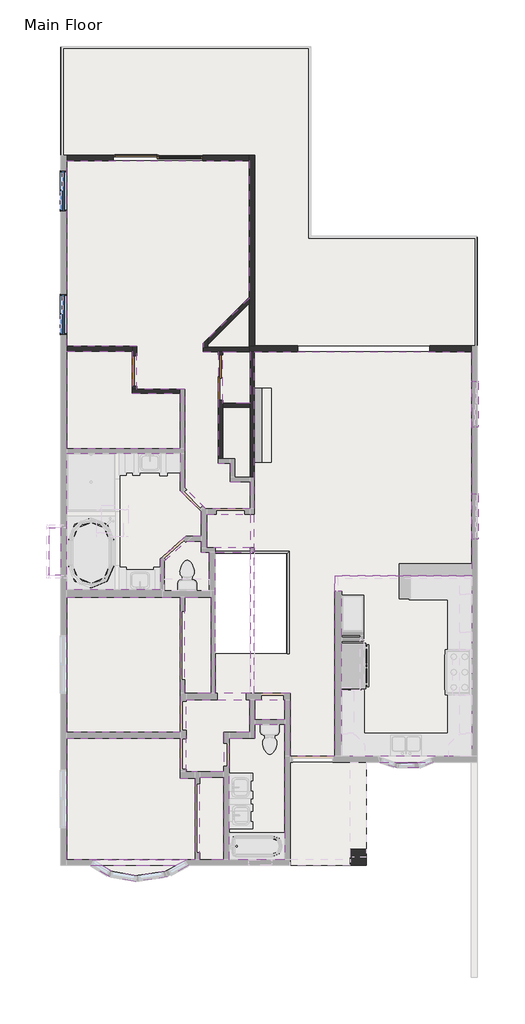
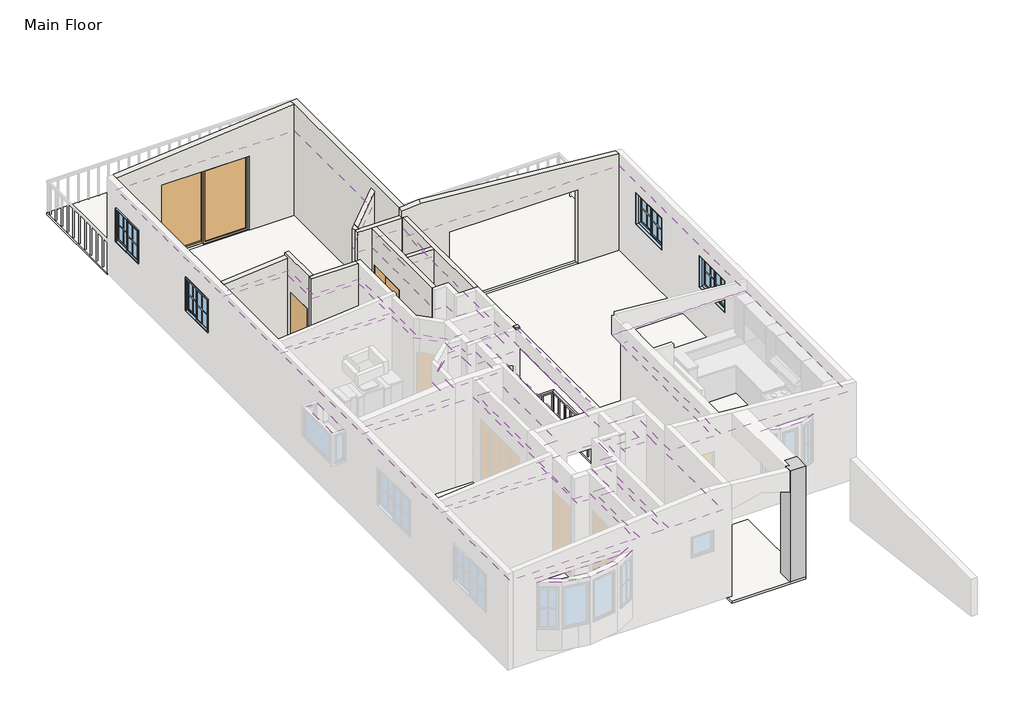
# One storey, part 3 of 5: 19 coverings, 12 walls, 7 slabs, 4 windows, 3 doors, 2 columns, 2 roofs, 1 railing.
"""IFC4 building model written with IfcOpenShell, lengths in millimetres."""

from ifc_helpers import new_model, si_unit, frame, origin, origin_with_axes, place, context, project, spatial, polyline, outline, extrude, faceted_brep, transform, mapped, element, save
from components import door_46b09886, door_6404c185, door_98a61b3f, default_1_cc5ff5b1, default_1_672f8768

model = new_model("IFC4")

# Units and contexts
model_context = context("Model", 3, world=origin())
ifc_project = project(units=[si_unit("LENGTHUNIT", "METRE", prefix="MILLI")], contexts=[model_context])

# Site, building, storey
site = spatial("IfcSite", under=ifc_project)
building = spatial("IfcBuilding", under=site)
storey = spatial("IfcBuildingStorey", under=building, Name="Main Floor", Elevation=0.0)

# Columns
placement = place(None, origin())
element("IfcColumn", 1, ObjectType="Rectangular Column 3D : Default 1", at=placement, inside=storey, context=model_context, shape_type="Brep", body=[
    faceted_brep([(1840.6244069, -9054.7938544, 3048.0), (2272.4244069, -9054.7938544, 3048.0), (2272.4244069, -8622.9938544, 3048.0), (1941.697808, -8622.9938544, 3048.0), (1941.697808, -8838.8938544, 3048.0), (1840.6244069, -8838.8938544, 3048.0), (2272.4244069, -8622.9938544, -152.4), (2272.4244069, -9054.7938544, -152.4), (1840.6244069, -9054.7938544, -152.4), (1840.6244069, -8622.9938544, -152.4), (1840.6244069, -8622.9938544, 2438.4), (2270.9820668, -8622.9938544, 2438.4), (2270.9820668, -8622.9938544, 3019.1913603), (1840.6244069, -8838.8938544, 2438.4), (2270.9820668, -8838.8938544, 2438.4), (2270.9820668, -8838.8938544, 3019.1913603)], [[[0, 1, 2, 3, 4, 5]], [[6, 7, 8, 9]], [[6, 9, 10, 11, 12, 3, 2]], [[9, 8, 0, 5, 13, 10]], [[1, 0, 8, 7]], [[2, 1, 7, 6]], [[14, 15, 12, 11]], [[14, 11, 10, 13]], [[15, 14, 13, 5, 4]], [[12, 15, 4, 3]]]),
])
element("IfcColumn", 2, ObjectType="Rectangular Column 3D : Default 1", at=placement, inside=storey, context=model_context, shape_type="Brep", body=[
    faceted_brep([(-705.7255931, -742.6438544, 3048.0), (-705.7255931, -628.3438544, 3048.0), (-820.0255931, -628.3438544, 3048.0), (-820.0255931, -742.6438544, 3048.0), (-705.7255931, -742.6438544, 2997.2), (-705.7255931, -685.4938544, 2997.2), (-705.7255931, -628.3438544, 2997.2), (-820.0255931, -628.3438544, 2997.2), (-820.0255931, -685.4938544, 2997.2), (-820.0255931, -742.6438544, 2997.2)], [[[0, 1, 2, 3]], [[1, 0, 4, 5, 6]], [[2, 1, 6, 7]], [[3, 2, 7, 8, 9]], [[0, 3, 9, 4]], [[6, 5, 4, 9, 8, 7]]]),
])

# Coverings
element("IfcCovering", 3, ObjectType="1/2\" Ceiling", at=placement, inside=storey, context=model_context, shape_type="Brep", body=[
    faceted_brep([(-2483.8869931, -8902.3938544, 2880.3477589), (-2274.1755931, -8902.3938544, 2908.4132251), (-2274.1755931, -6737.0438544, 2908.4132251), (-2674.2255931, -6737.0438544, 2854.8749351), (-2674.2255931, -5676.5938544, 2854.8749351), (-5690.4755931, -5676.5938544, 2451.2132251), (-5690.4755931, -8902.3938544, 2451.2132251), (-2483.8869931, -8902.3938544, 2867.5345338), (-5690.4755931, -8902.3938544, 2438.4), (-5690.4755931, -5676.5938544, 2438.4), (-2674.2255931, -5676.5938544, 2842.06171), (-2674.2255931, -6737.0438544, 2842.06171), (-2274.1755931, -6737.0438544, 2895.6), (-2274.1755931, -8902.3938544, 2895.6)], [[[0, 1, 2, 3, 4, 5, 6]], [[7, 8, 9, 10, 11, 12, 13]], [[1, 0, 7, 13]], [[2, 1, 13, 12]], [[3, 2, 12, 11]], [[4, 3, 11, 10]], [[5, 4, 10, 9]], [[6, 5, 9, 8]], [[0, 6, 8, 7]]]),
])
element("IfcCovering", 4, ObjectType="1/2\" Ceiling", at=placement, inside=storey, context=model_context, shape_type="SweptSolid", body=[
    extrude(outline(polyline([(-832.7255931, -5524.1938544), (-1512.1755931, -5524.1938544), (-1512.1755931, -6571.9438544), (-2217.0255931, -6571.9438544), (-2509.1255931, -6571.9438544), (-2509.1255931, -4654.2438544), (-832.7255931, -4654.2438544), (-832.7255931, -5524.1938544)])), frame((0.0, 0.0, 2133.6), z_axis=(0.0, 0.0, 1.0), x_axis=(1.0, 0.0, 0.0)), (0.0, 0.0, 1.0), 12.7),
])
element("IfcCovering", 5, ObjectType="1/2\" Ceiling", at=placement, inside=storey, context=model_context, shape_type="SweptSolid", body=[
    extrude(outline(polyline([(100.7244069, -6241.7438544), (100.7244069, -8902.3938544), (-1372.4755931, -8902.3938544), (-1372.4755931, -5676.5938544), (-693.0255931, -5676.5938544), (-693.0255931, -5308.2938544), (100.7244069, -5308.2938544), (100.7244069, -6241.7438544)])), frame((0.0, 0.0, 2438.4), z_axis=(0.0, 0.0, 1.0), x_axis=(1.0, 0.0, 0.0)), (0.0, 0.0, 1.0), 12.7),
])
element("IfcCovering", 6, ObjectType="1/2\" Ceiling", at=placement, inside=storey, context=model_context, shape_type="Brep", body=[
    faceted_brep([(-2674.2255931, -5524.1938544, 2908.4450702), (-2674.2255931, -4571.6938544, 2908.4450702), (-2674.2255931, -1936.4438544, 2908.4450702), (-3150.4755931, -1936.4438544, 2836.2555965), (-5690.4755931, -1936.4438544, 2451.2450702), (-5690.4755931, -5524.1938544, 2451.2450702), (-2674.2255931, -5524.1938544, 2895.6), (-5690.4755931, -5524.1938544, 2438.4), (-5690.4755931, -1936.4438544, 2438.4), (-3150.4755931, -1936.4438544, 2823.4105263), (-2674.2255931, -1936.4438544, 2895.6), (-2674.2255931, -4571.6938544, 2895.6)], [[[0, 1, 2, 3, 4, 5]], [[6, 7, 8, 9, 10, 11]], [[1, 0, 6, 11]], [[2, 1, 11, 10]], [[3, 2, 10, 9]], [[4, 3, 9, 8]], [[5, 4, 8, 7]], [[0, 5, 7, 6]]]),
])
element("IfcCovering", 7, ObjectType="1/2\" Ceiling", at=placement, inside=storey, context=model_context, shape_type="SweptSolid", body=[
    extrude(outline(polyline([(-1855.0755931, -1936.4438544), (-1855.0755931, -4489.1438544), (-2559.9255931, -4489.1438544), (-2559.9255931, -1936.4438544), (-1855.0755931, -1936.4438544)])), frame((0.0, 0.0, 2438.4), z_axis=(0.0, 0.0, 1.0), x_axis=(1.0, 0.0, 0.0)), (0.0, 0.0, 1.0), 12.7),
])
element("IfcCovering", 8, ObjectType="1/2\" Ceiling", at=placement, inside=storey, context=model_context, shape_type="SweptSolid", body=[
    extrude(outline(polyline([(100.7244069, -5193.9938544), (-693.0255931, -5193.9938544), (-693.0255931, -4654.2438544), (100.7244069, -4654.2438544), (100.7244069, -5193.9938544)])), frame((0.0, 0.0, 2133.6), z_axis=(0.0, 0.0, 1.0), x_axis=(1.0, 0.0, 0.0)), (0.0, 0.0, 1.0), 12.7),
])
element("IfcCovering", 9, ObjectType="1/2\" Ceiling", at=placement, inside=storey, context=model_context, shape_type="Brep", body=[
    faceted_brep([(1427.8744069, -6165.5438544, 2739.3417571), (1427.8744069, -1364.9438544, 2739.3417571), (5066.4244069, -1364.9438544, 2451.1397769), (5066.4244069, 4585.0061456, 2451.1397769), (-705.7255931, 4585.0061456, 2908.3397769), (-705.7255931, 1187.7561456, 2908.3397769), (-705.7255931, -4489.1438544, 2908.3397769), (253.1244069, -4489.1438544, 2832.3912621), (253.1244069, -6165.5438544, 2832.3912621), (1427.8744069, -6165.5438544, 2726.6019802), (253.1244069, -6165.5438544, 2819.6514851), (253.1244069, -4489.1438544, 2819.6514851), (-705.7255931, -4489.1438544, 2895.6), (-705.7255931, 1187.7561456, 2895.6), (-705.7255931, 4585.0061456, 2895.6), (5066.4244069, 4585.0061456, 2438.4), (5066.4244069, -1364.9438544, 2438.4), (1427.8744069, -1364.9438544, 2726.6019802)], [[[0, 1, 2, 3, 4, 5, 6, 7, 8]], [[9, 10, 11, 12, 13, 14, 15, 16, 17]], [[1, 0, 9, 17]], [[2, 1, 17, 16]], [[3, 2, 16, 15]], [[4, 3, 15, 14]], [[5, 4, 14, 13]], [[6, 5, 13, 12]], [[7, 6, 12, 11]], [[8, 7, 11, 10]], [[0, 8, 10, 9]]]),
])
element("IfcCovering", 10, ObjectType="1/2\" Ceiling", at=placement, inside=storey, context=model_context, shape_type="Brep", body=[
    faceted_brep([(-2667.8755931, 2006.9061456, 2908.4444647), (-2667.8755931, 3473.7561456, 2908.4444647), (-3944.2255931, 3473.7561456, 2715.3831202), (-3944.2255931, 4591.3561456, 2715.3831202), (-5690.4755931, 4591.3561456, 2451.2444647), (-5690.4755931, 2006.9061456, 2451.2444647), (-2667.8755931, 2006.9061456, 2895.6), (-5690.4755931, 2006.9061456, 2438.4), (-5690.4755931, 4591.3561456, 2438.4), (-3944.2255931, 4591.3561456, 2702.5386555), (-3944.2255931, 3473.7561456, 2702.5386555), (-2667.8755931, 3473.7561456, 2895.6)], [[[0, 1, 2, 3, 4, 5]], [[6, 7, 8, 9, 10, 11]], [[1, 0, 6, 11]], [[2, 1, 11, 10]], [[3, 2, 10, 9]], [[4, 3, 9, 8]], [[5, 4, 8, 7]], [[0, 5, 7, 6]]]),
])
element("IfcCovering", 11, ObjectType="1/2\" Ceiling", at=placement, inside=storey, context=model_context, shape_type="Brep", body=[
    faceted_brep([(-5690.4755931, 4731.0561456, 2451.1564191), (-3829.9255931, 4731.0561456, 2626.7260128), (-3829.9255931, 3588.0561456, 2626.7260128), (-2553.5755931, 3588.0561456, 2747.1679525), (-2553.5755931, 1949.7561456, 2747.1679525), (-2553.5755931, 970.5797803, 2747.1679525), (-2002.4019585, 419.4061456, 2799.179095), (-820.0255931, 419.4061456, 2910.7532736), (-820.0255931, 1130.6061456, 2910.7532736), (-1340.7255931, 1130.6061456, 2861.6177559), (-1340.7255931, 1625.9061456, 2861.6177559), (-1658.2255931, 1625.9061456, 2831.6570744), (-1658.2255931, 4585.0061456, 2831.6570744), (-2058.2755931, 4585.0061456, 2793.9066157), (-2058.2755931, 4822.8652456, 2793.9066157), (-845.4255931, 5997.8137041, 2908.3564191), (-845.4255931, 9652.3061456, 2908.3564191), (-5690.4755931, 9652.3061456, 2451.1564191), (-5690.4755931, 4731.0561456, 2438.4), (-5690.4755931, 9652.3061456, 2438.4), (-845.4255931, 9652.3061456, 2895.6), (-845.4255931, 5997.8137041, 2895.6), (-2058.2755931, 4822.8652456, 2781.1501966), (-2058.2755931, 4585.0061456, 2781.1501966), (-1658.2255931, 4585.0061456, 2818.9006553), (-1658.2255931, 1625.9061456, 2818.9006553), (-1340.7255931, 1625.9061456, 2848.8613368), (-1340.7255931, 1130.6061456, 2848.8613368), (-820.0255931, 1130.6061456, 2897.9968545), (-820.0255931, 419.4061456, 2897.9968545), (-2002.4019585, 419.4061456, 2786.4226759), (-2553.5755931, 970.5797803, 2734.4115334), (-2553.5755931, 1949.7561456, 2734.4115334), (-2553.5755931, 3588.0561456, 2734.4115334), (-3829.9255931, 3588.0561456, 2613.9695937), (-3829.9255931, 4731.0561456, 2613.9695937)], [[[0, 1, 2, 3, 4, 5, 6, 7, 8, 9, 10, 11, 12, 13, 14, 15, 16, 17]], [[18, 19, 20, 21, 22, 23, 24, 25, 26, 27, 28, 29, 30, 31, 32, 33, 34, 35]], [[1, 0, 18, 35]], [[2, 1, 35, 34]], [[3, 2, 34, 33]], [[4, 3, 33, 32]], [[5, 4, 32, 31]], [[6, 5, 31, 30]], [[7, 6, 30, 29]], [[8, 7, 29, 28]], [[9, 8, 28, 27]], [[10, 9, 27, 26]], [[11, 10, 26, 25]], [[12, 11, 25, 24]], [[13, 12, 24, 23]], [[14, 13, 23, 22]], [[15, 14, 22, 21]], [[16, 15, 21, 20]], [[17, 16, 20, 19]], [[0, 17, 19, 18]]]),
])
element("IfcCovering", 12, ObjectType="1/2\" Ceiling", at=placement, inside=storey, context=model_context, shape_type="SweptSolid", body=[
    extrude(outline(polyline([(-1543.9255931, 3219.7561456), (-1543.9255931, 4585.0061456), (-820.0255931, 4585.0061456), (-820.0255931, 3219.7561456), (-1543.9255931, 3219.7561456)])), frame((0.0, 0.0, 2692.4), z_axis=(0.0, 0.0, 1.0), x_axis=(1.0, 0.0, 0.0)), (0.0, 0.0, 1.0), 12.7),
])
element("IfcCovering", 13, ObjectType="1/2\" Ceiling", at=placement, inside=storey, context=model_context, shape_type="SweptSolid", body=[
    extrude(outline(polyline([(-1905.8755931, -742.6438544), (-1905.8755931, -1758.6438544), (-3093.3255931, -1758.6438544), (-3093.3255931, -971.6794544), (-2493.9101931, -444.1938544), (-2121.7755931, -444.1938544), (-2121.7755931, -742.6438544), (-1905.8755931, -742.6438544)])), frame((0.0, 0.0, 2743.2), z_axis=(0.0, 0.0, 1.0), x_axis=(1.0, 0.0, 0.0)), (0.0, 0.0, 1.0), 12.7),
])
element("IfcCovering", 14, ObjectType="1/2\" Ceiling", at=placement, inside=storey, context=model_context, shape_type="SweptSolid", body=[
    extrude(outline(polyline([(-1512.1755931, -6711.6438544), (-1512.1755931, -8902.3938544), (-2159.8755931, -8902.3938544), (-2159.8755931, -6711.6438544), (-1512.1755931, -6711.6438544)])), frame((0.0, 0.0, 2438.4), z_axis=(0.0, 0.0, 1.0), x_axis=(1.0, 0.0, 0.0)), (0.0, 0.0, 1.0), 12.7),
])
element("IfcCovering", 15, ObjectType="1/2\" Ceiling", at=placement, inside=storey, context=model_context, shape_type="SweptSolid", body=[
    extrude(outline(polyline([(1427.8744069, -1364.9438544), (5066.4244069, -1364.9438544), (5066.4244069, -6165.5438544), (4093.5395839, -6165.5438544), (1618.3744069, -6165.5438544), (1618.3744069, -1784.0438544), (1427.8744069, -1784.0438544), (1427.8744069, -1364.9438544)])), frame((0.0, 0.0, 2438.4), z_axis=(0.0, 0.0, 1.0), x_axis=(1.0, 0.0, 0.0)), (0.0, 0.0, 1.0), 12.7),
])
element("IfcCovering", 16, ObjectType="1/2\" Ceiling", at=placement, inside=storey, context=model_context, shape_type="SweptSolid", body=[
    extrude(outline(polyline([(-5842.8755931, -88.5938544), (-5842.8755931, -1352.2438544), (-6147.6755931, -1352.2438544), (-6147.6755931, -88.5938544), (-5842.8755931, -88.5938544)])), frame((0.0, 0.0, 2260.6), z_axis=(0.0, 0.0, 1.0), x_axis=(1.0, 0.0, 0.0)), (0.0, 0.0, 1.0), 12.7),
])
element("IfcCovering", 17, ObjectType="1/2\" Ceiling", at=placement, inside=storey, context=model_context, shape_type="Brep", body=[
    faceted_brep([(-3207.6255931, -1733.2438544, 2769.2913439), (-3207.6255931, -920.0083063, 2769.2913439), (-2522.6092328, -317.1938544, 2857.051447), (-2121.7755931, -317.1938544, 2908.4037994), (-2121.7755931, 341.2141456, 2908.4037994), (-2667.8755931, 887.3141456, 2838.4408101), (-2667.8755931, 1892.6061456, 2838.4408101), (-5690.4755931, 1892.6061456, 2451.2037994), (-5690.4755931, -1733.2438544, 2451.2037994), (-4166.4755931, 387.74856, 2646.449351), (-4166.4755931, -221.85144, 2646.449351), (-4776.0755931, -221.85144, 2568.3511304), (-4776.0755931, 387.74856, 2568.3511304), (-3207.6255931, -1733.2438544, 2756.4875445), (-5690.4755931, -1733.2438544, 2438.4), (-5690.4755931, 1892.6061456, 2438.4), (-2667.8755931, 1892.6061456, 2825.6370107), (-2667.8755931, 887.3141456, 2825.6370107), (-2121.7755931, 341.2141456, 2895.6), (-2121.7755931, -317.1938544, 2895.6), (-2522.6092328, -317.1938544, 2844.2476476), (-3207.6255931, -920.0083063, 2756.4875445), (-4166.4755931, 387.74856, 2633.6455516), (-4776.0755931, 387.74856, 2555.547331), (-4776.0755931, -221.85144, 2555.547331), (-4166.4755931, -221.85144, 2633.6455516)], [[[0, 1, 2, 3, 4, 5, 6, 7, 8], [9, 10, 11, 12]], [[13, 14, 15, 16, 17, 18, 19, 20, 21], [22, 23, 24, 25]], [[2, 1, 21, 20]], [[3, 2, 20, 19]], [[4, 3, 19, 18]], [[5, 4, 18, 17]], [[6, 5, 17, 16]], [[7, 6, 16, 15]], [[8, 7, 15, 14]], [[0, 8, 14, 13]], [[1, 0, 13, 21]], [[10, 9, 22, 25]], [[11, 10, 25, 24]], [[12, 11, 24, 23]], [[9, 12, 23, 22]]]),
])
element("IfcCovering", 18, ObjectType="1/2\" Ceiling", at=placement, inside=storey, context=model_context, shape_type="SweptSolid", body=[
    extrude(outline(polyline([(-2483.8869931, -8902.3938544), (-3066.9473931, -9216.3494544), (-3847.8613931, -9333.1791544), (-4495.9832156, -9217.0063323), (-5009.6362959, -8902.3938544), (-2483.8869931, -8902.3938544)])), frame((0.0, 0.0, 2260.6), z_axis=(0.0, 0.0, 1.0), x_axis=(1.0, 0.0, 0.0)), (0.0, 0.0, 1.0), 12.7),
])
element("IfcCovering", 19, ObjectType="1/2\" Ceiling", at=placement, inside=storey, context=model_context, shape_type="SweptSolid", body=[
    extrude(outline(polyline([(3102.2106646, -6343.3438544), (3026.7162146, -6317.9438544), (3696.5240104, -6317.9438544), (3630.3547482, -6343.3438544), (3102.2106646, -6343.3438544)])), frame((0.0, 0.0, 2260.6), z_axis=(0.0, 0.0, 1.0), x_axis=(1.0, 0.0, 0.0)), (0.0, 0.0, 1.0), 12.7),
])
element("IfcCovering", 20, ObjectType="1/2\" Ceiling", at=placement, inside=storey, context=model_context, shape_type="SweptSolid", body=[
    extrude(outline(polyline([(-820.0255931, -742.6438544), (-820.0255931, -4489.1438544), (-1740.0282964, -4489.1438544), (-1740.0282964, -742.6438544), (-820.0255931, -742.6438544)])), frame((0.0, 0.0, 3048.0), z_axis=(0.0, 0.0, 1.0), x_axis=(1.0, 0.0, 0.0)), (0.0, 0.0, 1.0), 12.7),
])
element("IfcCovering", 21, ObjectType="1/2\" Ceiling", at=placement, inside=storey, context=model_context, shape_type="SweptSolid", body=[
    extrude(outline(polyline([(-820.0255931, 267.0061456), (-820.0255931, -628.3438544), (-1969.3755931, -628.3438544), (-1969.3755931, 267.0061456), (-820.0255931, 267.0061456)])), frame((0.0, 0.0, 2286.0), z_axis=(0.0, 0.0, 1.0), x_axis=(1.0, 0.0, 0.0)), (0.0, 0.0, 1.0), 12.7),
])

# Doors
door_shape = door_46b09886(model_context)
element("IfcDoor", 22, ObjectType="Planitar - Single Door_Flush Panel : 2'-8\" x 6'-8\"", at=placement, inside=storey, context=model_context, shape_type="MappedRepresentation", body=[
    mapped(door_shape, transform((-3887.0755931, 4075.4186456, 0.0), x_axis=(0.0, 1.0, 0.0), y_axis=(-1.0, 0.0, 0.0), z_axis=(0.0, 0.0, 1.0))),
])
door_2_shape = door_6404c185(model_context)
element("IfcDoor", 23, ObjectType="Planitar - Double Sliding Door_Flush Panel : 4'-0\" x 6'-8\"", at=placement, inside=storey, context=model_context, shape_type="MappedRepresentation", body=[
    mapped(door_2_shape, transform((-1604.2505931, 3899.2061456, 0.0), x_axis=(0.0, 1.0, 0.0), y_axis=(-1.0, 0.0, 0.0), z_axis=(0.0, 0.0, 1.0))),
])
door_3_shape = door_98a61b3f(model_context)
element("IfcDoor", 24, ObjectType="Planitar - Double Sliding Door_Glass : 6'-0\" x 6'-8\"", at=placement, inside=storey, context=model_context, shape_type="MappedRepresentation", body=[
    mapped(door_3_shape, transform((-3264.7755931, 9601.5061456, 0.0), x_axis=(1.0, 0.0, 0.0), y_axis=(0.0, 1.0, 0.0), z_axis=(0.0, 0.0, 1.0))),
])

# Railing
element("IfcRailing", 25, ObjectType="900mm Rectangular", at=placement, inside=storey, context=model_context, shape_type="SolidModel", body=[
    faceted_brep([(-1740.7755931, -717.6438544, 900.0), (-1740.7755931, -717.6438544, 850.0), (-1740.7755931, -767.6438544, 850.0), (-1740.7755931, -767.6438544, 900.0), (220.9744069, -3441.3938544, 900.0), (170.9744069, -3441.3938544, 900.0), (170.9744069, -3441.3938544, 850.0), (220.9744069, -3441.3938544, 850.0), (220.9744069, -717.6438544, 900.0), (220.9744069, -717.6438544, 850.0), (170.9744069, -767.6438544, 850.0), (170.9744069, -767.6438544, 900.0)], [[[0, 1, 2, 3]], [[4, 5, 6, 7]], [[1, 0, 8, 9]], [[2, 1, 9, 10]], [[3, 2, 10, 11]], [[0, 3, 11, 8]], [[9, 8, 4, 7]], [[10, 9, 7, 6]], [[11, 10, 6, 5]], [[8, 11, 5, 4]]]),
    extrude(outline(polyline([(183.4744069, -3205.1438544), (208.4744069, -3205.1438544), (208.4744069, -3230.1438544), (183.4744069, -3230.1438544), (183.4744069, -3205.1438544)])), origin_with_axes(), (0.0, 0.0, 1.0), 850.0),
    extrude(outline(polyline([(183.4744069, -2930.1438544), (208.4744069, -2930.1438544), (208.4744069, -2955.1438544), (183.4744069, -2955.1438544), (183.4744069, -2930.1438544)])), origin_with_axes(), (0.0, 0.0, 1.0), 850.0),
    extrude(outline(polyline([(183.4744069, -2655.1438544), (208.4744069, -2655.1438544), (208.4744069, -2680.1438544), (183.4744069, -2680.1438544), (183.4744069, -2655.1438544)])), origin_with_axes(), (0.0, 0.0, 1.0), 850.0),
    extrude(outline(polyline([(183.4744069, -2380.1438544), (208.4744069, -2380.1438544), (208.4744069, -2405.1438544), (183.4744069, -2405.1438544), (183.4744069, -2380.1438544)])), origin_with_axes(), (0.0, 0.0, 1.0), 850.0),
    extrude(outline(polyline([(183.4744069, -2105.1438544), (208.4744069, -2105.1438544), (208.4744069, -2130.1438544), (183.4744069, -2130.1438544), (183.4744069, -2105.1438544)])), origin_with_axes(), (0.0, 0.0, 1.0), 850.0),
    extrude(outline(polyline([(183.4744069, -1830.1438544), (208.4744069, -1830.1438544), (208.4744069, -1855.1438544), (183.4744069, -1855.1438544), (183.4744069, -1830.1438544)])), origin_with_axes(), (0.0, 0.0, 1.0), 850.0),
    extrude(outline(polyline([(183.4744069, -1555.1438544), (208.4744069, -1555.1438544), (208.4744069, -1580.1438544), (183.4744069, -1580.1438544), (183.4744069, -1555.1438544)])), origin_with_axes(), (0.0, 0.0, 1.0), 850.0),
    extrude(outline(polyline([(183.4744069, -1280.1438544), (208.4744069, -1280.1438544), (208.4744069, -1305.1438544), (183.4744069, -1305.1438544), (183.4744069, -1280.1438544)])), origin_with_axes(), (0.0, 0.0, 1.0), 850.0),
    extrude(outline(polyline([(183.4744069, -1005.1438544), (208.4744069, -1005.1438544), (208.4744069, -1030.1438544), (183.4744069, -1030.1438544), (183.4744069, -1005.1438544)])), origin_with_axes(), (0.0, 0.0, 1.0), 850.0),
    extrude(outline(polyline([(171.7244069, -755.1438544), (171.7244069, -730.1438544), (196.7244069, -730.1438544), (196.7244069, -755.1438544), (171.7244069, -755.1438544)])), origin_with_axes(), (0.0, 0.0, 1.0), 850.0),
    extrude(outline(polyline([(-103.2755931, -755.1438544), (-103.2755931, -730.1438544), (-78.2755931, -730.1438544), (-78.2755931, -755.1438544), (-103.2755931, -755.1438544)])), origin_with_axes(), (0.0, 0.0, 1.0), 850.0),
    extrude(outline(polyline([(-378.2755931, -755.1438544), (-378.2755931, -730.1438544), (-353.2755931, -730.1438544), (-353.2755931, -755.1438544), (-378.2755931, -755.1438544)])), origin_with_axes(), (0.0, 0.0, 1.0), 850.0),
    extrude(outline(polyline([(-653.2755931, -755.1438544), (-653.2755931, -730.1438544), (-628.2755931, -730.1438544), (-628.2755931, -755.1438544), (-653.2755931, -755.1438544)])), origin_with_axes(), (0.0, 0.0, 1.0), 850.0),
    extrude(outline(polyline([(-928.2755931, -755.1438544), (-928.2755931, -730.1438544), (-903.2755931, -730.1438544), (-903.2755931, -755.1438544), (-928.2755931, -755.1438544)])), origin_with_axes(), (0.0, 0.0, 1.0), 850.0),
    extrude(outline(polyline([(-1203.2755931, -755.1438544), (-1203.2755931, -730.1438544), (-1178.2755931, -730.1438544), (-1178.2755931, -755.1438544), (-1203.2755931, -755.1438544)])), origin_with_axes(), (0.0, 0.0, 1.0), 850.0),
    extrude(outline(polyline([(-1478.2755931, -755.1438544), (-1478.2755931, -730.1438544), (-1453.2755931, -730.1438544), (-1453.2755931, -755.1438544), (-1478.2755931, -755.1438544)])), origin_with_axes(), (0.0, 0.0, 1.0), 850.0),
    extrude(outline(polyline([(183.4744069, -755.1438544), (183.4744069, -730.1438544), (208.4744069, -730.1438544), (208.4744069, -755.1438544), (183.4744069, -755.1438544)])), origin_with_axes(), (0.0, 0.0, 1.0), 850.0),
    extrude(outline(polyline([(183.4744069, -3416.3938544), (208.4744069, -3416.3938544), (208.4744069, -3441.3938544), (183.4744069, -3441.3938544), (183.4744069, -3416.3938544)])), origin_with_axes(), (0.0, 0.0, 1.0), 850.0),
    extrude(outline(polyline([(-1740.7755931, -755.1438544), (-1740.7755931, -730.1438544), (-1715.7755931, -730.1438544), (-1715.7755931, -755.1438544), (-1740.7755931, -755.1438544)])), origin_with_axes(), (0.0, 0.0, 1.0), 850.0),
])

# Roofs
element("IfcRoof", 26, ObjectType="Planitar Roof - 5\"", at=placement, inside=storey, context=model_context, shape_type="Brep", body=[
    faceted_brep([(-3120.7046054, -9054.7938544, 2346.3789291), (-2445.4642739, -9054.7938544, 2260.6), (-3018.1038076, -9363.1382187, 2260.6), (-3850.0897275, -9487.6086026, 2260.6), (-3843.8444421, -9054.7938544, 2375.0483012), (-4549.6415315, -9362.2171956, 2260.6), (-4432.7102103, -9054.7938544, 2347.209554), (-5051.5572445, -9054.7938544, 2260.6), (-2445.4642739, -9054.7938544, 2392.0800749), (-3120.7046054, -9054.7938544, 2477.859004), (-3018.1038076, -9363.1382187, 2392.0800749), (-3850.0897275, -9487.6086026, 2392.0800749), (-3843.8444421, -9054.7938544, 2506.5283761), (-4549.6415315, -9362.2171956, 2392.0800749), (-4432.7102103, -9054.7938544, 2478.6896289), (-5051.5572445, -9054.7938544, 2392.0800749)], [[[0, 1, 2]], [[3, 4, 0, 2]], [[5, 6, 4, 3]], [[5, 7, 6]], [[8, 9, 10]], [[11, 10, 9, 12]], [[13, 11, 12, 14]], [[15, 13, 14]], [[5, 13, 15, 7]], [[3, 11, 13, 5]], [[2, 10, 11, 3]], [[1, 8, 10, 2]], [[15, 14, 12, 9, 8, 1, 0, 4, 6, 7]]]),
])
element("IfcRoof", 27, ObjectType="Planitar Roof - 5\"", at=placement, inside=storey, context=model_context, shape_type="Brep", body=[
    faceted_brep([(3081.4188069, -6470.3438544, 2260.6), (2628.4521069, -6317.9438544, 2260.6), (3106.3690362, -6317.9438544, 2348.588181), (3625.6471364, -6317.9438544, 2348.588181), (3653.8928069, -6470.3438544, 2260.6), (4050.9083803, -6317.9438544, 2260.6), (2628.4521069, -6317.9438544, 2407.2469684), (3081.4188069, -6470.3438544, 2407.2469684), (3106.3690362, -6317.9438544, 2495.2351494), (3653.8928069, -6470.3438544, 2407.2469684), (3625.6471364, -6317.9438544, 2495.2351494), (4050.9083803, -6317.9438544, 2407.2469684)], [[[0, 1, 2]], [[0, 2, 3, 4]], [[3, 5, 4]], [[6, 7, 8]], [[7, 9, 10, 8]], [[11, 10, 9]], [[0, 7, 6, 1]], [[4, 9, 7, 0]], [[5, 11, 9, 4]], [[6, 8, 10, 11, 5, 3, 2, 1]]]),
])

# Slabs
element("IfcSlab", 28, ObjectType="Ledge - 2\"", at=placement, inside=storey, context=model_context, shape_type="SweptSolid", body=[
    extrude(outline(polyline([(-5842.8755931, 12662.2061456), (761.1244069, 12662.2061456), (761.1244069, 7620.3061456), (5218.8244069, 7620.3061456), (5218.8244069, 4737.4061456), (-693.0255931, 4737.4061456), (-693.0255931, 9804.7061456), (-5842.8755931, 9804.7061456), (-5842.8755931, 12662.2061456)])), frame((0.0, 0.0, -50.8), z_axis=(0.0, 0.0, 1.0), x_axis=(1.0, 0.0, 0.0)), (0.0, 0.0, 1.0), 50.8),
])
element("IfcSlab", 29, ObjectType="Ledge - 2\"", at=placement, inside=storey, context=model_context, shape_type="SweptSolid", body=[
    extrude(outline(polyline([(253.1244069, -9054.7938544), (253.1244069, -6317.9438544), (2270.9820668, -6317.9438544), (2270.9820668, -9054.7938544), (253.1244069, -9054.7938544)])), frame((0.0, 0.0, -203.2), z_axis=(0.0, 0.0, 1.0), x_axis=(1.0, 0.0, 0.0)), (0.0, 0.0, 1.0), 50.8),
])
element("IfcSlab", 30, ObjectType="Ledge - 2\"", at=placement, inside=storey, context=model_context, shape_type="SweptSolid", body=[
    extrude(outline(polyline([(-5008.5939931, -8902.3938544), (-5690.4755931, -8902.3938544), (-5690.4755931, -1276.0438544), (-5690.4755931, -164.7938544), (-5690.4755931, 9652.3061456), (-800.9755931, 9652.3061456), (-800.9755931, 4585.0061456), (5066.4244069, 4585.0061456), (5066.4244069, -6165.5438544), (100.7244069, -6165.5438544), (100.7244069, -8902.3938544), (-5008.5939931, -8902.3938544)]), holes=[polyline([(138.8244069, -761.6938544), (-1740.7755931, -761.6938544), (-1740.7755931, -3428.6938544), (138.8244069, -3428.6938544), (138.8244069, -761.6938544)])]), frame((0.0, 0.0, -50.8), z_axis=(0.0, 0.0, 1.0), x_axis=(1.0, 0.0, 0.0)), (0.0, 0.0, 1.0), 50.8),
])
element("IfcSlab", 31, ObjectType="Ledge - 2\"", at=placement, inside=storey, context=model_context, shape_type="SweptSolid", body=[
    extrude(outline(polyline([(-501.6061774, 3607.1061456), (-254.8755931, 3607.1061456), (-254.8755931, 1644.9561456), (-501.6061774, 1644.9561456), (-501.6061774, 3607.1061456)])), origin_with_axes(), (0.0, 0.0, 1.0), 50.8),
])
element("IfcSlab", 32, ObjectType="Ledge - 2\"", at=placement, inside=storey, context=model_context, shape_type="SweptSolid", body=[
    extrude(outline(polyline([(-5842.8755931, -88.5938544), (-5842.8755931, -1352.2438544), (-6147.6755931, -1352.2438544), (-6147.6755931, -88.5938544), (-5842.8755931, -88.5938544)])), frame((0.0, 0.0, 1371.6), z_axis=(0.0, 0.0, 1.0), x_axis=(1.0, 0.0, 0.0)), (0.0, 0.0, 1.0), 50.8),
])
element("IfcSlab", 33, ObjectType="Ledge - 2\"", at=placement, inside=storey, context=model_context, shape_type="SweptSolid", body=[
    extrude(outline(polyline([(-2483.8869931, -8902.3938544), (-3066.9473931, -9216.3494544), (-3847.8613931, -9333.1791544), (-4495.9832156, -9217.0063323), (-5009.6362959, -8902.3938544), (-2483.8869931, -8902.3938544)])), frame((0.0, 0.0, 254.0), z_axis=(0.0, 0.0, 1.0), x_axis=(1.0, 0.0, 0.0)), (0.0, 0.0, 1.0), 50.8),
])
element("IfcSlab", 34, ObjectType="Ledge - 2\"", at=placement, inside=storey, context=model_context, shape_type="SweptSolid", body=[
    extrude(outline(polyline([(3696.5240104, -6317.9438544), (3630.3547482, -6343.3438544), (3102.2106646, -6343.3438544), (3026.7162146, -6317.9438544), (3696.5240104, -6317.9438544)])), frame((0.0, 0.0, 863.6), z_axis=(0.0, 0.0, 1.0), x_axis=(1.0, 0.0, 0.0)), (0.0, 0.0, 1.0), 50.8),
])

# Walls
element("IfcWall", 35, ObjectType="Planitar - Generic 6\"", at=placement, inside=storey, context=model_context, shape_type="Brep", body=[
    faceted_brep([(5066.4244069, 4737.4061456, 2774.621846), (5066.4244069, 4737.4061456, 0.0), (3955.1744069, 4737.4061456, 0.0), (3955.1744069, 4737.4061456, 2133.6), (449.9744069, 4737.4061456, 2133.6), (449.9744069, 4737.4061456, 0.0), (-693.0255931, 4737.4061456, 0.0), (-845.4255931, 4737.4061456, 0.0), (-845.4255931, 4737.4061456, 3198.5087952), (-693.0255931, 4737.4061456, 3211.8420675), (-312.0255931, 4737.4061456, 3245.1752483), (5066.4244069, 4585.0061456, 0.0), (5066.4244069, 4585.0061456, 2774.621846), (-312.0255931, 4585.0061456, 3245.1752483), (-845.4255931, 4585.0061456, 3198.5087952), (-845.4255931, 4585.0061456, 2997.2), (-845.4255931, 4585.0061456, 0.0), (-820.0255931, 4585.0061456, 0.0), (-705.7255931, 4585.0061456, 0.0), (449.9744069, 4585.0061456, 0.0), (449.9744069, 4585.0061456, 2133.6), (3955.1744069, 4585.0061456, 2133.6), (3955.1744069, 4585.0061456, 0.0), (-845.4255931, 4699.3061456, 0.0)], [[[0, 1, 2, 3, 4, 5, 6, 7, 8, 9, 10]], [[11, 12, 13, 14, 15, 16, 17, 18, 19, 20, 21, 22]], [[1, 11, 22, 2]], [[16, 23, 7, 6, 5, 19, 18, 17]], [[1, 0, 12, 11]], [[8, 7, 23, 16, 15, 14]], [[12, 0, 10, 13]], [[8, 14, 13, 10, 9]], [[21, 3, 2, 22]], [[3, 21, 20, 4]], [[4, 20, 19, 5]]]),
])
element("IfcWall", 36, ObjectType="Planitar - Generic 6\"", at=placement, inside=storey, context=model_context, shape_type="Brep", body=[
    faceted_brep([(-693.0255931, 4737.4061456, 0.0), (-693.0255931, 9804.7061456, 0.0), (-693.0255931, 9804.7061456, 3211.8420675), (-693.0255931, 4737.4061456, 3211.8420675), (-845.4255931, 4737.4061456, 0.0), (-845.4255931, 4737.4061456, 3198.5087952), (-845.4255931, 9652.3061456, 3198.5087952), (-845.4255931, 9804.7061456, 3198.5087952), (-845.4255931, 9804.7061456, 0.0), (-845.4255931, 9652.3061456, 0.0), (-845.4255931, 6025.8579182, 0.0), (-845.4255931, 5864.2133081, 0.0)], [[[0, 1, 2, 3]], [[4, 5, 6, 7, 8, 9, 10, 11]], [[1, 0, 4, 11, 10, 9, 8]], [[0, 3, 5, 4]], [[2, 1, 8, 7]], [[3, 2, 7, 6, 5]]]),
])
element("IfcWall", 37, ObjectType="Planitar - Generic 6\"", at=placement, inside=storey, context=model_context, shape_type="SweptSolid", body=[
    extrude(outline(polyline([(2133.6, -2070.9755931), (0.0, -2070.9755931), (0.0, -845.4255931), (3198.5087952, -845.4255931), (2774.621846, -5690.4755931), (0.0, -5690.4755931), (0.0, -4458.5755931), (2133.6, -4458.5755931), (2133.6, -2070.9755931)])), frame((0.0, 9652.3061456, 0.0), z_axis=(0.0, 1.0, 0.0), x_axis=(0.0, 0.0, 1.0)), (0.0, 0.0, 1.0), 152.4),
])
element("IfcWall", 38, ObjectType="Planitar - Generic 4 1/2\"", at=placement, inside=storey, context=model_context, shape_type="Brep", body=[
    faceted_brep([(-2667.8755931, 3588.0561456, 0.0), (-3829.9255931, 3588.0561456, 0.0), (-3944.2255931, 3588.0561456, 0.0), (-3944.2255931, 3588.0561456, 2997.2), (-3829.9255931, 3588.0561456, 2997.2), (-2667.8755931, 3588.0561456, 2997.2), (-2667.8755931, 3473.7561456, 0.0), (-2667.8755931, 3473.7561456, 2997.2), (-3944.2255931, 3473.7561456, 2997.2), (-3944.2255931, 3473.7561456, 0.0)], [[[0, 1, 2, 3, 4, 5]], [[6, 7, 8, 9]], [[2, 1, 0, 6, 9]], [[5, 4, 3, 8, 7]], [[0, 5, 7, 6]], [[3, 2, 9, 8]]]),
])
element("IfcWall", 39, ObjectType="Planitar - Generic 4 1/2\"", at=placement, inside=storey, context=model_context, shape_type="Brep", body=[
    faceted_brep([(-3829.9255931, 4481.8186456, 2032.0), (-3829.9255931, 4481.8186456, 0.0), (-3829.9255931, 4731.0561456, 0.0), (-3829.9255931, 4731.0561456, 2997.2), (-3829.9255931, 3588.0561456, 2997.2), (-3829.9255931, 3588.0561456, 0.0), (-3829.9255931, 3669.0186456, 0.0), (-3829.9255931, 3669.0186456, 2032.0), (-3944.2255931, 4731.0561456, 0.0), (-3944.2255931, 4591.3561456, 0.0), (-3944.2255931, 4481.8186456, 0.0), (-3944.2255931, 4481.8186456, 2032.0), (-3944.2255931, 3669.0186456, 2032.0), (-3944.2255931, 3669.0186456, 0.0), (-3944.2255931, 3588.0561456, 0.0), (-3944.2255931, 3588.0561456, 2997.2), (-3944.2255931, 4731.0561456, 2997.2), (-3944.2255931, 4731.0561456, 2927.3989247)], [[[0, 1, 2, 3, 4, 5, 6, 7]], [[8, 9, 10, 11, 12, 13, 14, 15, 16, 17]], [[6, 5, 14, 13]], [[2, 1, 10, 9, 8]], [[4, 3, 16, 15]], [[5, 4, 15, 14]], [[3, 2, 8, 17, 16]], [[11, 10, 1, 0]], [[12, 11, 0, 7]], [[13, 12, 7, 6]]]),
])
element("IfcWall", 40, ObjectType="Planitar - Generic 5 1/2\"", at=placement, inside=storey, context=model_context, shape_type="SweptSolid", body=[
    extrude(outline(polyline([(0.0, -3944.2255931), (2927.3989247, -3944.2255931), (2774.621846, -5690.4755931), (0.0, -5690.4755931), (0.0, -3944.2255931)])), frame((0.0, 4591.3561456, 0.0), z_axis=(0.0, 1.0, 0.0), x_axis=(0.0, 0.0, 1.0)), (0.0, 0.0, 1.0), 139.7),
])
element("IfcWall", 41, ObjectType="Planitar - Generic 4 1/2\"", at=placement, inside=storey, context=model_context, shape_type="Brep", body=[
    faceted_brep([(-1543.9255931, 4585.0061456, 2997.2), (-1543.9255931, 3219.7561456, 2997.2), (-1543.9255931, 3105.4561456, 2997.2), (-1543.9255931, 1740.2061456, 2997.2), (-1543.9255931, 1740.2061456, 0.0), (-1543.9255931, 3105.4561456, 0.0), (-1543.9255931, 3219.7561456, 0.0), (-1543.9255931, 3289.6061456, 0.0), (-1543.9255931, 3289.6061456, 2000.0), (-1543.9255931, 4508.8061456, 2000.0), (-1543.9255931, 4508.8061456, 0.0), (-1543.9255931, 4585.0061456, 0.0), (-1658.2255931, 1740.2061456, 2997.2), (-1658.2255931, 4585.0061456, 2997.2), (-1658.2255931, 4585.0061456, 0.0), (-1658.2255931, 4508.8061456, 0.0), (-1658.2255931, 4508.8061456, 2000.0), (-1658.2255931, 3289.6061456, 2000.0), (-1658.2255931, 3289.6061456, 0.0), (-1658.2255931, 1740.2061456, 0.0)], [[[0, 1, 2, 3, 4, 5, 6, 7, 8, 9, 10, 11]], [[12, 13, 14, 15, 16, 17, 18, 19]], [[4, 19, 18, 7, 6, 5]], [[14, 11, 10, 15]], [[3, 2, 1, 0, 13, 12]], [[4, 3, 12, 19]], [[0, 11, 14, 13]], [[9, 16, 15, 10]], [[16, 9, 8, 17]], [[17, 8, 7, 18]]]),
])
element("IfcWall", 42, ObjectType="Planitar - Generic 4 1/2\"", at=placement, inside=storey, context=model_context, shape_type="Brep", body=[
    faceted_brep([(-845.4255931, 4699.3061456, 0.0), (-2058.2755931, 4699.3061456, 0.0), (-2058.2755931, 4699.3061456, 2997.2), (-845.4255931, 4699.3061456, 2997.2), (-845.4255931, 4585.0061456, 0.0), (-845.4255931, 4585.0061456, 2997.2), (-1543.9255931, 4585.0061456, 2997.2), (-1658.2255931, 4585.0061456, 2997.2), (-2058.2755931, 4585.0061456, 2997.2), (-2058.2755931, 4585.0061456, 0.0), (-1658.2255931, 4585.0061456, 0.0), (-1543.9255931, 4585.0061456, 0.0)], [[[0, 1, 2, 3]], [[4, 5, 6, 7, 8, 9, 10, 11]], [[1, 0, 4, 11, 10, 9]], [[2, 1, 9, 8]], [[3, 2, 8, 7, 6, 5]], [[0, 3, 5, 4]]]),
])
element("IfcWall", 43, ObjectType="Planitar - Generic 4 1/2\"", at=placement, inside=storey, context=model_context, shape_type="Brep", body=[
    faceted_brep([(-820.0255931, 4585.0061456, 0.0), (-820.0255931, 3219.7561456, 0.0), (-820.0255931, 3105.4561456, 0.0), (-820.0255931, 1244.9061456, 0.0), (-820.0255931, 1244.9061456, 2997.2), (-820.0255931, 3105.4561456, 2997.2), (-820.0255931, 3219.7561456, 2997.2), (-820.0255931, 4585.0061456, 2997.2), (-705.7255931, 4585.0061456, 0.0), (-705.7255931, 4585.0061456, 2997.2), (-705.7255931, 1244.9061456, 2997.2), (-705.7255931, 1244.9061456, 0.0)], [[[0, 1, 2, 3, 4, 5, 6, 7]], [[8, 9, 10, 11]], [[3, 2, 1, 0, 8, 11]], [[7, 6, 5, 4, 10, 9]], [[0, 7, 9, 8]], [[4, 3, 11, 10]]]),
])
element("IfcWall", 44, ObjectType="Planitar - Generic 4 1/2\"", at=placement, inside=storey, context=model_context, shape_type="SweptSolid", body=[
    extrude(outline(polyline([(-1543.9255931, 3219.7561456), (-820.0255931, 3219.7561456), (-820.0255931, 3105.4561456), (-1543.9255931, 3105.4561456), (-1543.9255931, 3219.7561456)])), origin_with_axes(), (0.0, 0.0, 1.0), 2997.2),
])
element("IfcWall", 45, ObjectType="Planitar - Generic 4 1/2\"", at=placement, inside=storey, context=model_context, shape_type="Brep", body=[
    faceted_brep([(-1943.9755931, 4699.3061456, 0.0), (-1943.9755931, 4765.6633081, 0.0), (-1943.9755931, 4927.3079182, 0.0), (-1943.9755931, 4927.3079182, 2997.2), (-1943.9755931, 4765.6633081, 2997.2), (-1943.9755931, 4699.3061456, 2997.2), (-2058.2755931, 4699.3061456, 0.0), (-2058.2755931, 4699.3061456, 2997.2), (-2058.2755931, 4813.0079182, 2997.2), (-2058.2755931, 4813.0079182, 0.0)], [[[0, 1, 2, 3, 4, 5]], [[6, 7, 8, 9]], [[2, 1, 0, 6, 9]], [[5, 4, 3, 8, 7]], [[0, 5, 7, 6]], [[3, 2, 9, 8]]]),
])
element("IfcWall", 46, ObjectType="Planitar - Generic 4 1/2\"", at=placement, inside=storey, context=model_context, shape_type="SweptSolid", body=[
    extrude(outline(polyline([(-845.4255931, 5864.2133081), (-1943.9755931, 4765.6633081), (-1943.9755931, 4927.3079182), (-845.4255931, 6025.8579182), (-845.4255931, 5864.2133081)])), origin_with_axes(), (0.0, 0.0, 1.0), 2997.2),
])

# Windows
default_1_shape = default_1_cc5ff5b1(model_context)
element("IfcWindow", 47, ObjectType="Planitar-Sliding-Double : Default 1", at=placement, inside=storey, context=model_context, shape_type="MappedRepresentation", body=[
    mapped(default_1_shape, transform((5146.4344069, 3193.5623956, 304.8), x_axis=(0.0, -1.0, 0.0), y_axis=(1.0, 0.0, 0.0), z_axis=(0.0, 0.0, 1.0))),
])
element("IfcWindow", 48, ObjectType="Planitar-Sliding-Double : Default 1", at=placement, inside=storey, context=model_context, shape_type="MappedRepresentation", body=[
    mapped(default_1_shape, transform((5146.4344069, 206.6811456, 304.8), x_axis=(0.0, -1.0, 0.0), y_axis=(1.0, 0.0, 0.0), z_axis=(0.0, 0.0, 1.0))),
])
default_1_2_shape = default_1_672f8768(model_context)
element("IfcWindow", 49, ObjectType="Planitar-Sliding-Double : Default 1", at=placement, inside=storey, context=model_context, shape_type="MappedRepresentation", body=[
    mapped(default_1_2_shape, transform((-5770.4855931, 5570.8436456, 254.0), x_axis=(0.0, 1.0, 0.0), y_axis=(-1.0, 0.0, 0.0), z_axis=(0.0, 0.0, 1.0))),
])
element("IfcWindow", 50, ObjectType="Planitar-Sliding-Double : Default 1", at=placement, inside=storey, context=model_context, shape_type="MappedRepresentation", body=[
    mapped(default_1_2_shape, transform((-5770.4855931, 8852.2061456, 254.0), x_axis=(0.0, 1.0, 0.0), y_axis=(-1.0, 0.0, 0.0), z_axis=(0.0, 0.0, 1.0))),
])

save(model, "model.ifc")
